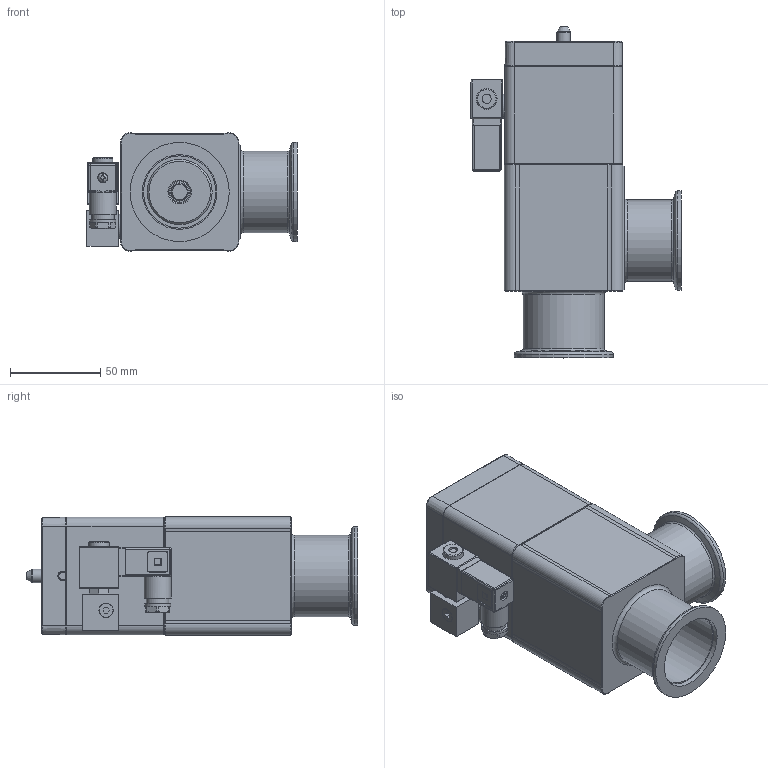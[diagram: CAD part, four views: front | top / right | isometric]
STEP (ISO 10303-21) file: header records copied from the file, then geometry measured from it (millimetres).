
FILE_DESCRIPTION(/* description */ (''),/* implementation_level */ '2;1');
FILE_NAME(/* name */ '1129813544_203.stp',/* time_stamp */ '2013-08-26T11:25:14+02:00',/* author */ (''),/* organization */ (''),/* preprocessor_version */ 'ST-DEVELOPER v11',/* originating_system */ 'SIEMENS PLM Software NX 7.5',/* authorisation */ '');
FILE_SCHEMA (('AP203_CONFIGURATION_CONTROLLED_3D_DESIGN_OF_MECHANICAL_PARTS_AND_ASSEMBLIES_MIM_LF'));
Length unit declared in the file: millimetre
Products named in the file (13): 467882; 437235; 244091.2; 233232; 236204_1.1; 243875.2; 232294.14; 239737.6; 240792.1; n-8501-400.2_MODELNX-ARRAGMNTArrangement 1; 443457; 239984.1; 701648
Assembly tree (16 placements, depth 4):
  701648
    240792.1  x4
    239737.6
    232294.14
    243875.2
    239984.1
      236204_1.1  x2
      233232
    443457
      244091.2
      n-8501-400.2_MODELNX-ARRAGMNTArrangement 1
        437235
        467882
Bounding box: 116.35 x 183.79 x 65.59 mm (x, y, z)
Volume: 329878.2 mm3; surface area: 138490.2 mm2
Topology: 22 solids, 23 shells, 846 faces, 2078 edges, 1344 vertices
Faces by surface type: plane 494, cylinder 188, cone 120, bspline 25, torus 14, sphere 5
Full cylindrical faces by diameter (mm): 2 x1, 2.5 x6, 2.8 x1, 2.95 x1, 3 x8, 3.2 x4, 3.26 x4, 3.3 x4, 4 x12, 4.22 x1, 4.5 x5, 4.6 x1, 4.7 x3, 5 x4, 5.5 x1, 5.6 x2, 7 x4, 7.4 x2, 7.6 x1, 7.9 x1, 8 x8, 9.1 x1, 10 x1, 10.2 x1, 11.3 x1, 11.4 x1, 11.5 x1, 11.975 x3, 12.012 x1, 12.013 x1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
Entity records: 26194 total; most frequent: CARTESIAN_POINT 5462, DIRECTION 3648, ORIENTED_EDGE 3390, EDGE_CURVE 1695, AXIS2_PLACEMENT_3D 1282, VERTEX_POINT 1205, LINE 1084, VECTOR 1084
